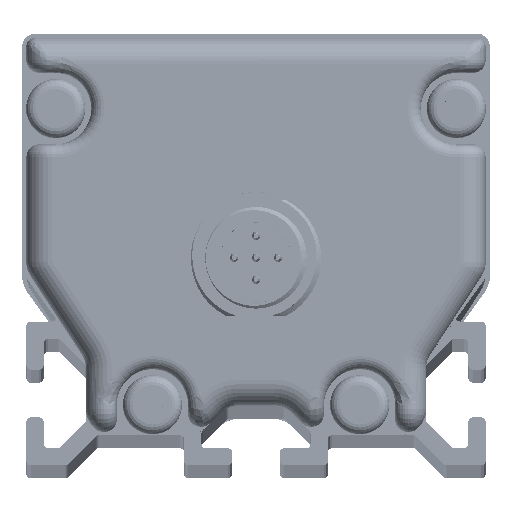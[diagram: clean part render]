
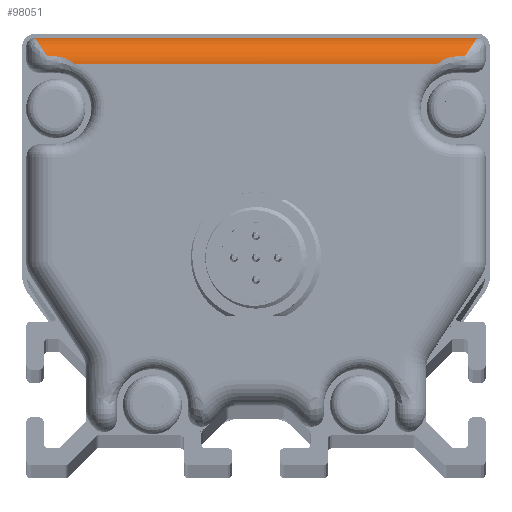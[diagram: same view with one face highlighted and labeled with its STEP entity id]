
A CAD part, top view. The second image highlights one B-rep face of the part: STEP entity #98051.
In plain terms, the highlighted cylindrical face has radius 3 mm (diameter 6 mm), a partial arc.
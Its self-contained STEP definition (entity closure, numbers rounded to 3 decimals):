
#404 = CARTESIAN_POINT ( 'NONE',  ( 22.234, 36.689, 9.921 ) ) ;
#2154 = EDGE_CURVE ( 'NONE', #81480, #124724, #88437, .T. ) ;
#3674 = CARTESIAN_POINT ( 'NONE',  ( -21.7, 36.448, 9.968 ) ) ;
#5207 = CARTESIAN_POINT ( 'NONE',  ( -21.367, 36.241, 9.992 ) ) ;
#6156 = EDGE_CURVE ( 'NONE', #81480, #38178, #140670, .T. ) ;
#7318 = B_SPLINE_CURVE_WITH_KNOTS ( 'NONE', 3,
 ( #133108, #134622, #51774, #100572, #124496, #40897, #3674, #5207, #85876, #28500 ),
 .UNSPECIFIED., .F., .F.,
 ( 4, 2, 2, 2, 4 ),
 ( 0., 0.001, 0.001, 0.002, 0.002 ),
 .UNSPECIFIED. ) ;
#14230 = VERTEX_POINT ( 'NONE', #74659 ) ;
#16253 = CARTESIAN_POINT ( 'NONE',  ( -24.167, 36.85, 9.877 ) ) ;
#19825 = EDGE_CURVE ( 'NONE', #63914, #14230, #43216, .T. ) ;
#19912 = VECTOR ( 'NONE', #74725, 1000. ) ;
#20009 = CARTESIAN_POINT ( 'NONE',  ( 0., 36.85, 9.877 ) ) ;
#25205 = CARTESIAN_POINT ( 'NONE',  ( -25.6, 36., 10. ) ) ;
#26306 = CARTESIAN_POINT ( 'NONE',  ( -23.2, 36.85, 9.877 ) ) ;
#27752 = EDGE_CURVE ( 'NONE', #53852, #44939, #126109, .T. ) ;
#28500 = CARTESIAN_POINT ( 'NONE',  ( -21.055, 36., 10. ) ) ;
#36461 = VECTOR ( 'NONE', #56439, 1000. ) ;
#38175 = CARTESIAN_POINT ( 'NONE',  ( 23.2, 36.85, 9.877 ) ) ;
#38178 = VERTEX_POINT ( 'NONE', #92732 ) ;
#40264 = CARTESIAN_POINT ( 'NONE',  ( -25.6, 39., 8.38 ) ) ;
#40897 = CARTESIAN_POINT ( 'NONE',  ( -21.876, 36.54, 9.952 ) ) ;
#43007 = VERTEX_POINT ( 'NONE', #46028 ) ;
#43216 =( BOUNDED_CURVE ( )  B_SPLINE_CURVE ( 3, ( #132874, #86395, #111153, #122002 ),
 .UNSPECIFIED., .F., .F. ) 
 B_SPLINE_CURVE_WITH_KNOTS ( ( 4, 4 ),
 ( 5., 6.283 ),
 .UNSPECIFIED. ) 
 CURVE ( )  GEOMETRIC_REPRESENTATION_ITEM ( )  RATIONAL_B_SPLINE_CURVE ( ( 1., 0.867, 0.867, 1. ) ) 
 REPRESENTATION_ITEM ( '' )  );
#44939 = VERTEX_POINT ( 'NONE', #26306 ) ;
#46028 = CARTESIAN_POINT ( 'NONE',  ( -25.6, 39., 7. ) ) ;
#46958 = CARTESIAN_POINT ( 'NONE',  ( 21.693, 36.464, 9.968 ) ) ;
#47711 = CARTESIAN_POINT ( 'NONE',  ( 22.807, 36.829, 9.883 ) ) ;
#47776 = VECTOR ( 'NONE', #49998, 1000. ) ;
#49998 = DIRECTION ( 'NONE',  ( -1., 0., 0. ) ) ;
#51539 = AXIS2_PLACEMENT_3D ( 'NONE', #132466, #52662, #87490 ) ;
#51774 = CARTESIAN_POINT ( 'NONE',  ( -22.803, 36.829, 9.884 ) ) ;
#51910 = CARTESIAN_POINT ( 'NONE',  ( -25.049, 38.174, 9.486 ) ) ;
#52662 = DIRECTION ( 'NONE',  ( 1., 0., 0. ) ) ;
#53852 = VERTEX_POINT ( 'NONE', #86404 ) ;
#56439 = DIRECTION ( 'NONE',  ( 1., 0., 0. ) ) ;
#57387 = CARTESIAN_POINT ( 'NONE',  ( 23.2, 36.85, 9.877 ) ) ;
#58970 = ORIENTED_EDGE ( 'NONE', *, *, #96328, .T. ) ;
#59330 = CARTESIAN_POINT ( 'NONE',  ( 21.36, 36.251, 10. ) ) ;
#63914 = VERTEX_POINT ( 'NONE', #105717 ) ;
#65017 = CARTESIAN_POINT ( 'NONE',  ( -25.6, 39., 7. ) ) ;
#72779 = ORIENTED_EDGE ( 'NONE', *, *, #27752, .T. ) ;
#74659 = CARTESIAN_POINT ( 'NONE',  ( 25.6, 39., 7. ) ) ;
#74725 = DIRECTION ( 'NONE',  ( 1., 0., 0. ) ) ;
#75190 = DIRECTION ( 'NONE',  ( 1., 0., 0. ) ) ;
#79373 = ORIENTED_EDGE ( 'NONE', *, *, #6156, .F. ) ;
#81033 = CARTESIAN_POINT ( 'NONE',  ( 22.424, 36.749, 9.905 ) ) ;
#81480 = VERTEX_POINT ( 'NONE', #104223 ) ;
#85449 = EDGE_CURVE ( 'NONE', #124724, #63914, #139865, .T. ) ;
#85876 = CARTESIAN_POINT ( 'NONE',  ( -21.208, 36.126, 10. ) ) ;
#86395 = CARTESIAN_POINT ( 'NONE',  ( 25.049, 38.174, 9.486 ) ) ;
#86404 = CARTESIAN_POINT ( 'NONE',  ( -24.167, 36.85, 9.877 ) ) ;
#87490 = DIRECTION ( 'NONE',  ( 0., 0., -1. ) ) ;
#88437 = B_SPLINE_CURVE_WITH_KNOTS ( 'NONE', 3,
 ( #153061, #59330, #46958, #404, #81033, #47711, #144283, #38175 ),
 .UNSPECIFIED., .F., .F.,
 ( 4, 2, 2, 4 ),
 ( 0., 0.001, 0.002, 0.002 ),
 .UNSPECIFIED. ) ;
#92569 =( BOUNDED_CURVE ( )  B_SPLINE_CURVE ( 3, ( #16253, #51910, #40264, #65017 ),
 .UNSPECIFIED., .F., .F. ) 
 B_SPLINE_CURVE_WITH_KNOTS ( ( 4, 4 ),
 ( 5., 6.283 ),
 .UNSPECIFIED. ) 
 CURVE ( )  GEOMETRIC_REPRESENTATION_ITEM ( )  RATIONAL_B_SPLINE_CURVE ( ( 1., 0.867, 0.867, 1. ) ) 
 REPRESENTATION_ITEM ( '' )  );
#92732 = CARTESIAN_POINT ( 'NONE',  ( -21.055, 36., 10. ) ) ;
#96328 = EDGE_CURVE ( 'NONE', #44939, #38178, #7318, .T. ) ;
#98051 = ADVANCED_FACE ( 'NONE', ( #98405 ), #109224, .T. ) ;
#98303 = ORIENTED_EDGE ( 'NONE', *, *, #132813, .F. ) ;
#98405 = FACE_OUTER_BOUND ( 'NONE', #132879, .T. ) ;
#100572 = CARTESIAN_POINT ( 'NONE',  ( -22.421, 36.748, 9.906 ) ) ;
#101148 = VECTOR ( 'NONE', #75190, 1000. ) ;
#104223 = CARTESIAN_POINT ( 'NONE',  ( 21.055, 36., 10. ) ) ;
#105717 = CARTESIAN_POINT ( 'NONE',  ( 24.167, 36.85, 9.877 ) ) ;
#109224 = CYLINDRICAL_SURFACE ( 'NONE', #51539, 3. ) ;
#111153 = CARTESIAN_POINT ( 'NONE',  ( 25.6, 39., 8.38 ) ) ;
#115078 = ORIENTED_EDGE ( 'NONE', *, *, #19825, .T. ) ;
#120190 = EDGE_CURVE ( 'NONE', #43007, #14230, #121685, .T. ) ;
#121685 = LINE ( 'NONE', #123227, #101148 ) ;
#121975 = CARTESIAN_POINT ( 'NONE',  ( 0., 36.85, 9.877 ) ) ;
#122002 = CARTESIAN_POINT ( 'NONE',  ( 25.6, 39., 7. ) ) ;
#123227 = CARTESIAN_POINT ( 'NONE',  ( 25.6, 39., 7. ) ) ;
#124496 = CARTESIAN_POINT ( 'NONE',  ( -22.236, 36.689, 9.921 ) ) ;
#124724 = VERTEX_POINT ( 'NONE', #57387 ) ;
#126109 = LINE ( 'NONE', #20009, #36461 ) ;
#128902 = ORIENTED_EDGE ( 'NONE', *, *, #85449, .T. ) ;
#132240 = ORIENTED_EDGE ( 'NONE', *, *, #2154, .T. ) ;
#132466 = CARTESIAN_POINT ( 'NONE',  ( 0., 36., 7. ) ) ;
#132813 = EDGE_CURVE ( 'NONE', #53852, #43007, #92569, .T. ) ;
#132874 = CARTESIAN_POINT ( 'NONE',  ( 24.167, 36.85, 9.877 ) ) ;
#132879 = EDGE_LOOP ( 'NONE', ( #132240, #128902, #115078, #143594, #98303, #72779, #58970, #79373 ) ) ;
#133108 = CARTESIAN_POINT ( 'NONE',  ( -23.2, 36.85, 9.877 ) ) ;
#134622 = CARTESIAN_POINT ( 'NONE',  ( -23.002, 36.85, 9.877 ) ) ;
#139865 = LINE ( 'NONE', #121975, #19912 ) ;
#140670 = LINE ( 'NONE', #25205, #47776 ) ;
#143594 = ORIENTED_EDGE ( 'NONE', *, *, #120190, .F. ) ;
#144283 = CARTESIAN_POINT ( 'NONE',  ( 23.002, 36.85, 9.877 ) ) ;
#153061 = CARTESIAN_POINT ( 'NONE',  ( 21.055, 36., 10. ) ) ;
